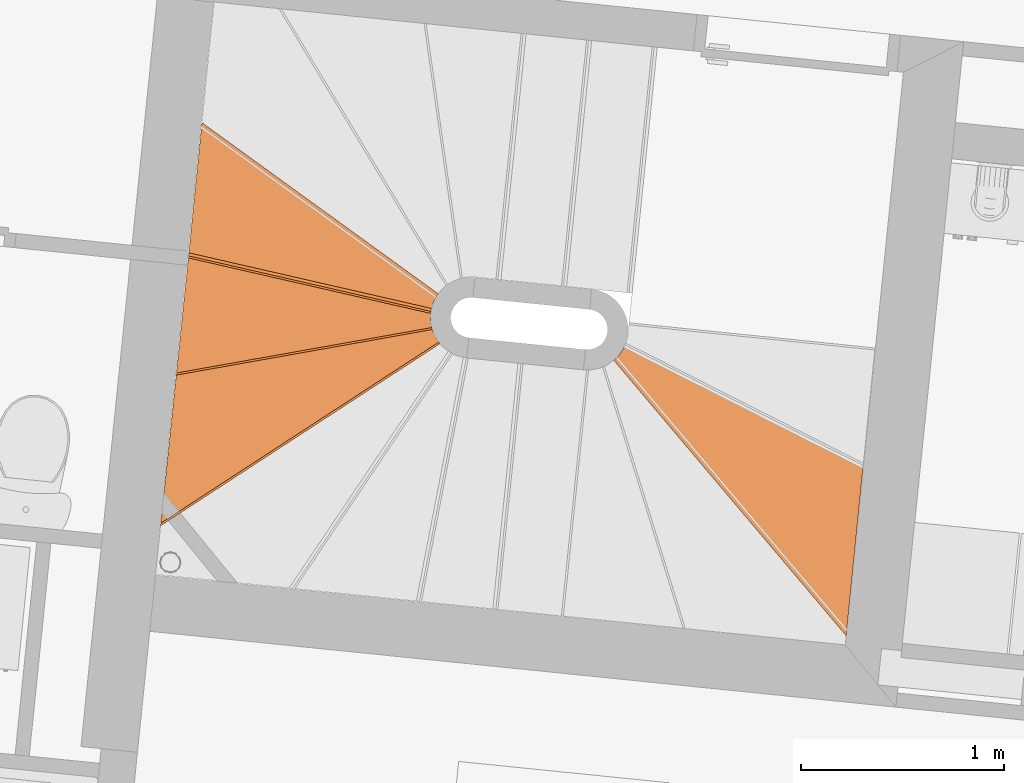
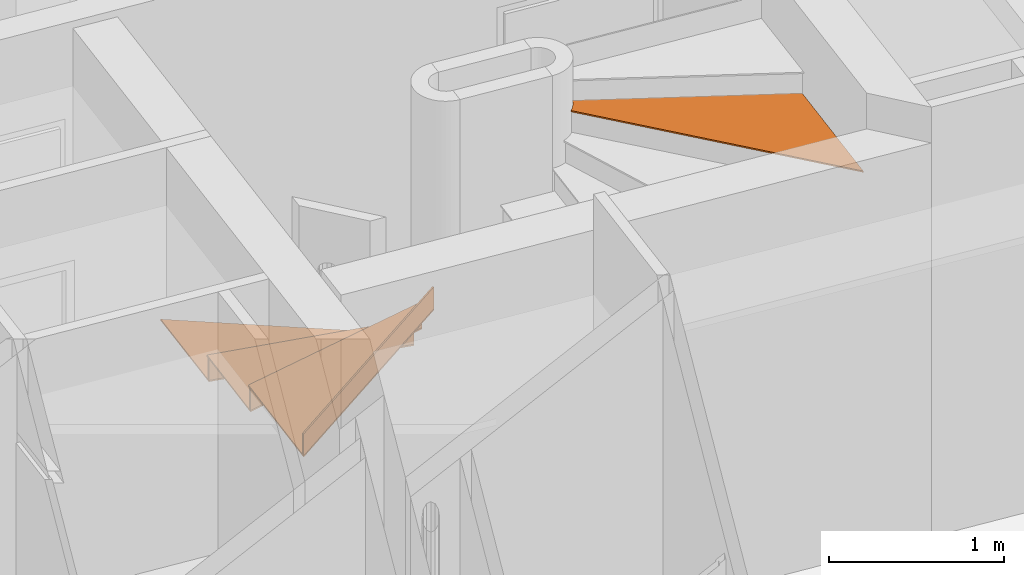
# One storey, part 163 of 164: 7 proxies, 1 element without a shape of its own.
"""IFC2X3 building model written with IfcOpenShell, lengths in millimetres."""

from ifc_helpers import new_model, entity, si_unit, converted_unit, derived_unit, money_unit, direction, frame, origin_with_axes, place, context, subcontext, project, spatial, faceted_brep, material, type_object, element, aggregate, save


model = new_model("IFC2X3")

# Units and contexts
model_context = context("Model", 3, precision=0.01, world=origin_with_axes(), true_north=direction((0.0, 1.0)))
body_context = subcontext(model_context, "Body", "Model", "MODEL_VIEW")
ifc_project = project(units=[si_unit("LENGTHUNIT", "METRE", prefix="MILLI"), si_unit("AREAUNIT", "SQUARE_METRE"), si_unit("VOLUMEUNIT", "CUBIC_METRE"), converted_unit("PLANEANGLEUNIT", "DEGREE", entity("IfcPlaneAngleMeasure", 0.0174532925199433), si_unit("PLANEANGLEUNIT", "RADIAN"), dimensions=[0, 0, 0, 0, 0, 0, 0]), money_unit("USD"), converted_unit("TIMEUNIT", "Year", entity("IfcTimeMeasure", 31557600.0), si_unit("TIMEUNIT", "SECOND"), dimensions=[0, 0, 1, 0, 0, 0, 0]), si_unit("MASSUNIT", "GRAM", prefix="KILO"), si_unit("THERMODYNAMICTEMPERATUREUNIT", "DEGREE_CELSIUS"), si_unit("LUMINOUSINTENSITYUNIT", "LUMEN"), si_unit("ENERGYUNIT", "JOULE", prefix="MEGA"), derived_unit("THERMALCONDUCTANCEUNIT", [(si_unit("POWERUNIT", "WATT"), 1), (si_unit("LENGTHUNIT", "METRE"), -1), (si_unit("THERMODYNAMICTEMPERATUREUNIT", "KELVIN"), -1)]), derived_unit("SPECIFICHEATCAPACITYUNIT", [(si_unit("ENERGYUNIT", "JOULE"), 1), (si_unit("MASSUNIT", "GRAM", prefix="KILO"), -1), (si_unit("THERMODYNAMICTEMPERATUREUNIT", "KELVIN"), -1)]), derived_unit("MASSDENSITYUNIT", [(si_unit("MASSUNIT", "GRAM", prefix="KILO"), 1), (si_unit("VOLUMEUNIT", "CUBIC_METRE"), -1)])], contexts=[model_context])

# Site, building, storey
site_placement = place(None, origin_with_axes())
site = spatial("IfcSite", under=ifc_project, at=site_placement, Name="Site", CompositionType="ELEMENT")
building_placement = place(site_placement, origin_with_axes())
building = spatial("IfcBuilding", under=site, at=building_placement, Name="Bâtiment", CompositionType="ELEMENT")
storey_placement = place(building_placement, frame((0.0, 0.0, 5750.0), z_axis=(0.0, 0.0, 1.0), x_axis=(1.0, 0.0, 0.0)))
storey = spatial("IfcBuildingStorey", under=building, at=storey_placement, Name="Etage1", CompositionType="ELEMENT", Elevation=5750.0)

# Stair, proxies
stair_placement = place(storey_placement, frame((2227388.475510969, -615472.1219328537, 0.0), z_axis=(0.0, 0.0, 1.0), x_axis=(-0.9948232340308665, 0.1016205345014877, 0.0)))
stair = element("IfcStair", 1, at=stair_placement, inside=storey, Name="ESC-020", ShapeType="NOTDEFINED")
ifc_material = material(Name="Lame d'air 275581351")
building_element_proxy_type = type_object("IfcBuildingElementProxyType", Name="IfcBuildingElementProxy", PredefinedType="NOTDEFINED")
proxy_1_placement = place(stair_placement, frame((1408.508417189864, 708.7583624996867, 1445.882352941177), z_axis=(0.0, 0.0, 1.0), x_axis=(0.7779965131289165, 0.6282685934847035, 0.0)))
proxy_1 = element("IfcBuildingElementProxy", 2, at=proxy_1_placement, type_object=building_element_proxy_type, material=ifc_material, Name="C-MARCHE-340", context=body_context, shape_type="Brep", body=[
    faceted_brep([(1026.802065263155, 15.0000000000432, 0.0), (1034.902198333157, 25.00000000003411, 0.0), (-611.3159759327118, 25.00000000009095, 0.0), (-610.5635345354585, 15.0000000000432, 0.0), (1026.802065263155, 15.0000000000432, -151.7647058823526), (1034.902198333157, 25.00000000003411, -151.7647058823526), (-611.3159759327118, 25.00000000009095, -151.7647058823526), (-610.5635345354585, 15.0000000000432, -151.7647058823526)], [[[0, 1, 2, 3]], [[0, 4, 5, 1]], [[1, 5, 6, 2]], [[3, 2, 6, 7]], [[4, 0, 3, 7]], [[5, 4, 7, 6]]]),
])
proxy_2_placement = place(stair_placement, frame((1557.233341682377, 422.1230880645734, 1284.117647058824), z_axis=(0.0, 0.0, 1.0), x_axis=(0.9616268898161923, 0.2743605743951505, 0.0)))
proxy_2 = element("IfcBuildingElementProxy", 3, at=proxy_2_placement, type_object=building_element_proxy_type, material=ifc_material, Name="C-MARCHE-339", context=body_context, shape_type="Brep", body=[
    faceted_brep([(669.3900729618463, 15.00000000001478, 0.0), (672.2592924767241, 25.00000000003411, 0.0), (-611.3159759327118, 25.00000000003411, 0.0), (-610.5635345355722, 14.99999999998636, 0.0), (669.3900729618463, 15.00000000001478, -151.7647058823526), (672.2592924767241, 25.00000000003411, -151.7647058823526), (-611.3159759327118, 25.00000000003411, -151.7647058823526), (-610.5635345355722, 14.99999999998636, -151.7647058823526)], [[[0, 1, 2, 3]], [[0, 4, 5, 1]], [[1, 5, 6, 2]], [[3, 2, 6, 7]], [[4, 0, 3, 7]], [[5, 4, 7, 6]]]),
])
proxy_3_placement = place(stair_placement, frame((1582.14598069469, 100.163084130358, 1122.35294117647), z_axis=(0.0, 0.0, 1.0), x_axis=(0.9923864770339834, -0.123162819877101, 0.0)))
proxy_3 = element("IfcBuildingElementProxy", 4, at=proxy_3_placement, type_object=building_element_proxy_type, material=ifc_material, Name="C-MARCHE-338", context=body_context, shape_type="Brep", body=[
    faceted_brep([(616.9148624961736, 15.00000000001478, 0.0), (615.6568410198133, 25.00000000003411, 0.0), (-611.3159759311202, 25.00000000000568, 0.0), (-610.5635345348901, 15.0000000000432, 0.0), (616.9148624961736, 15.00000000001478, -151.7647058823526), (615.6568410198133, 25.00000000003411, -151.7647058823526), (-611.3159759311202, 25.00000000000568, -151.7647058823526), (-610.5635345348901, 15.0000000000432, -151.7647058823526)], [[[0, 1, 2, 3]], [[0, 4, 5, 1]], [[1, 5, 6, 2]], [[3, 2, 6, 7]], [[4, 0, 3, 7]], [[5, 4, 7, 6]]]),
])
proxy_4_placement = place(stair_placement, frame((1479.28594708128, -205.939345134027, 970.5882352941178), z_axis=(0.0, 0.0, 1.0), x_axis=(0.8653853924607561, -0.5011068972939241, 0.0)))
proxy_4 = element("IfcBuildingElementProxy", 5, at=proxy_4_placement, type_object=building_element_proxy_type, material=ifc_material, Name="MARCHE-337", context=body_context, shape_type="Brep", body=[
    faceted_brep([(-610.0000000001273, 0.0, -9.999999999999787), (829.7203680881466, 0.0, -9.999999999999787), (829.7203680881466, 0.0, 0.0), (-610.0000000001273, 0.0, 0.0), (-615.4656237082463, 46.42674873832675, -9.999999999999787), (-631.5636368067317, 90.31490221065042, -9.999999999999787), (-637.1026110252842, 100.5080304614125, -9.999999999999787), (492.5768707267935, 579.995606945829, -9.999999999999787), (492.5768707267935, 579.995606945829, 0.0), (-637.1026110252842, 100.5080304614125, 0.0), (-631.5636368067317, 90.31490221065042, 0.0), (-615.4656237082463, 46.42674873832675, 0.0)], [[[0, 1, 2, 3]], [[0, 4, 5, 6, 7, 1]], [[1, 7, 8, 2]], [[3, 2, 8, 9, 10, 11]], [[4, 0, 3, 11]], [[5, 4, 11, 10]], [[6, 5, 10, 9]], [[7, 6, 9, 8]]]),
])
proxy_5_placement = place(stair_placement, frame((1582.14598069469, 100.163084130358, 1132.352941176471), z_axis=(0.0, 0.0, 1.0), x_axis=(0.9923864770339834, -0.123162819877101, 0.0)))
proxy_5 = element("IfcBuildingElementProxy", 6, at=proxy_5_placement, type_object=building_element_proxy_type, material=ifc_material, Name="MARCHE-338", context=body_context, shape_type="Brep", body=[
    faceted_brep([(-609.9999999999, 0.0, -9.999999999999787), (618.8018947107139, 0.0, -9.999999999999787), (618.8018947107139, 0.0, 0.0), (-609.9999999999, 0.0, 0.0), (-610.4531617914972, 13.45295387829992, -9.999999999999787), (-618.7562293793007, 58.51773040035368, -9.999999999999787), (-637.1026110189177, 100.5080304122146, -9.999999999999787), (544.6802479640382, 602.1106604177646, -9.999999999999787), (606.7813705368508, 95.55102515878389, -9.999999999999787), (606.7813705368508, 95.55102515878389, 0.0), (544.6802479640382, 602.1106604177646, 0.0), (-637.1026110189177, 100.5080304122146, 0.0), (-618.7562293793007, 58.51773040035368, 0.0), (-610.4531617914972, 13.45295387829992, 0.0)], [[[0, 1, 2, 3]], [[0, 4, 5, 6, 7, 8, 1]], [[1, 8, 9, 2]], [[3, 2, 9, 10, 11, 12, 13]], [[4, 0, 3, 13]], [[5, 4, 13, 12]], [[6, 5, 12, 11]], [[7, 6, 11, 10]], [[8, 7, 10, 9]]]),
])
proxy_6_placement = place(stair_placement, frame((1557.233341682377, 422.1230880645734, 1294.117647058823), z_axis=(0.0, 0.0, 1.0), x_axis=(0.9616268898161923, 0.2743605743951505, 0.0)))
proxy_6 = element("IfcBuildingElementProxy", 7, at=proxy_6_placement, type_object=building_element_proxy_type, material=ifc_material, Name="MARCHE-339", context=body_context, shape_type="Brep", body=[
    faceted_brep([(-610.0000000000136, 0.0, -9.999999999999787), (665.0862436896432, 0.0, -9.999999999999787), (665.0862436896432, 0.0, 0.0), (-610.0000000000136, 0.0, 0.0), (-613.0741059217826, 34.92373449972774, -9.999999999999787), (-622.2018820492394, 68.77341783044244, -9.999999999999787), (-637.1026110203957, 100.5080303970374, -9.999999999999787), (878.4983008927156, 743.798291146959, -9.999999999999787), (878.4983008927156, 743.798291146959, 0.0), (-637.1026110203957, 100.5080303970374, 0.0), (-622.2018820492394, 68.77341783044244, 0.0), (-613.0741059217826, 34.92373449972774, 0.0)], [[[0, 1, 2, 3]], [[0, 4, 5, 6, 7, 1]], [[1, 7, 8, 2]], [[3, 2, 8, 9, 10, 11]], [[4, 0, 3, 11]], [[5, 4, 11, 10]], [[6, 5, 10, 9]], [[7, 6, 9, 8]]]),
])
proxy_7_placement = place(stair_placement, frame((-382.5948050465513, 762.6261828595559, 2426.470588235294), z_axis=(0.0, 0.0, 1.0), x_axis=(-0.7192233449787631, 0.6947789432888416, 0.0)))
proxy_7 = element("IfcBuildingElementProxy", 8, at=proxy_7_placement, type_object=building_element_proxy_type, material=ifc_material, Name="MARCHE-346", context=body_context, shape_type="Brep", body=[
    faceted_brep([(-610.0000000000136, 0.0, -9.999999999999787), (1168.148248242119, 0.0, -9.999999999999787), (1168.148248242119, 0.0, 0.0), (-610.0000000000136, 0.0, 0.0), (-613.07410592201, 34.92373450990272, -9.999999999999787), (-622.2018820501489, 68.77341785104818, -9.999999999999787), (-637.1026110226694, 100.5080304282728, -9.999999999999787), (572.6500316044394, 613.9823142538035, -9.999999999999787), (572.6500316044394, 613.9823142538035, 0.0), (-637.1026110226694, 100.5080304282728, 0.0), (-622.2018820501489, 68.77341785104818, 0.0), (-613.07410592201, 34.92373450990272, 0.0)], [[[0, 1, 2, 3]], [[0, 4, 5, 6, 7, 1]], [[1, 7, 8, 2]], [[3, 2, 8, 9, 10, 11]], [[4, 0, 3, 11]], [[5, 4, 11, 10]], [[6, 5, 10, 9]], [[7, 6, 9, 8]]]),
])
aggregate(stair, [proxy_1, proxy_2, proxy_3, proxy_4, proxy_5, proxy_6, proxy_7])

save(model, "model.ifc")
